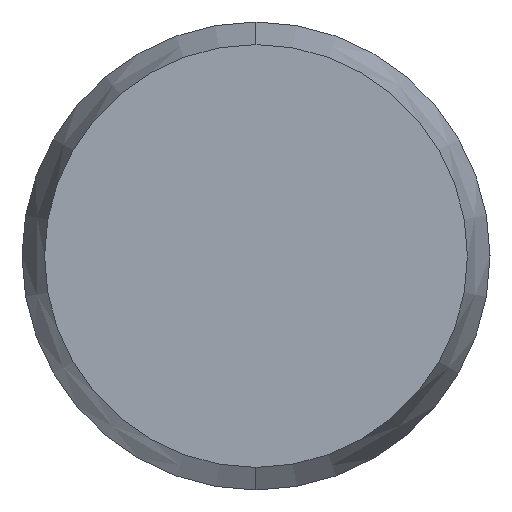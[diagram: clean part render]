
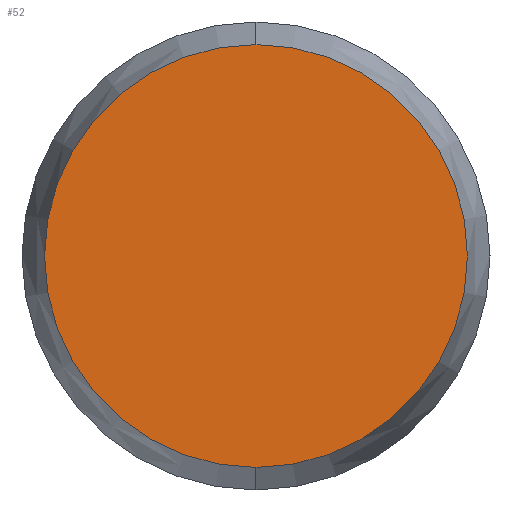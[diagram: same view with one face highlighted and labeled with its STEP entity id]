
A CAD part, left-side view. The second image highlights one B-rep face of the part: STEP entity #52.
In plain terms, the highlighted planar face has unit normal (-1, 0, 0).
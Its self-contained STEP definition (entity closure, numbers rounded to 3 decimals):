
#10 = EDGE_CURVE ( 'NONE', #86, #85, #203, .T. ) ;
#50 = ORIENTED_EDGE ( 'NONE', *, *, #10, .F. ) ;
#51 = ORIENTED_EDGE ( 'NONE', *, *, #84, .F. ) ;
#52 = ADVANCED_FACE ( 'NONE', ( #113 ), #112, .F. ) ;
#55 = EDGE_LOOP ( 'NONE', ( #51, #50 ) ) ;
#84 = EDGE_CURVE ( 'NONE', #85, #86, #91, .T. ) ;
#85 = VERTEX_POINT ( 'NONE', #133 ) ;
#86 = VERTEX_POINT ( 'NONE', #132 ) ;
#91 = CIRCLE ( 'NONE', #137, 1.129 ) ;
#107 = DIRECTION ( 'NONE',  ( 0., 0., -1. ) ) ;
#108 = DIRECTION ( 'NONE',  ( 1., 0., 0. ) ) ;
#109 = CARTESIAN_POINT ( 'NONE',  ( -10., 0., 0. ) ) ;
#111 = AXIS2_PLACEMENT_3D ( 'NONE', #109, #108, #107 ) ;
#112 = PLANE ( 'NONE',  #111 ) ;
#113 = FACE_OUTER_BOUND ( 'NONE', #55, .T. ) ;
#132 = CARTESIAN_POINT ( 'NONE',  ( -10., 0., -1.129 ) ) ;
#133 = CARTESIAN_POINT ( 'NONE',  ( -10., 0., 1.129 ) ) ;
#134 = DIRECTION ( 'NONE',  ( 0., 0., -1. ) ) ;
#135 = DIRECTION ( 'NONE',  ( 1., 0., 0. ) ) ;
#136 = CARTESIAN_POINT ( 'NONE',  ( -10., 0., 0. ) ) ;
#137 = AXIS2_PLACEMENT_3D ( 'NONE', #136, #135, #134 ) ;
#199 = DIRECTION ( 'NONE',  ( 0., 0., -1. ) ) ;
#200 = DIRECTION ( 'NONE',  ( 1., 0., 0. ) ) ;
#201 = CARTESIAN_POINT ( 'NONE',  ( -10., 0., 0. ) ) ;
#202 = AXIS2_PLACEMENT_3D ( 'NONE', #201, #200, #199 ) ;
#203 = CIRCLE ( 'NONE', #202, 1.129 ) ;
